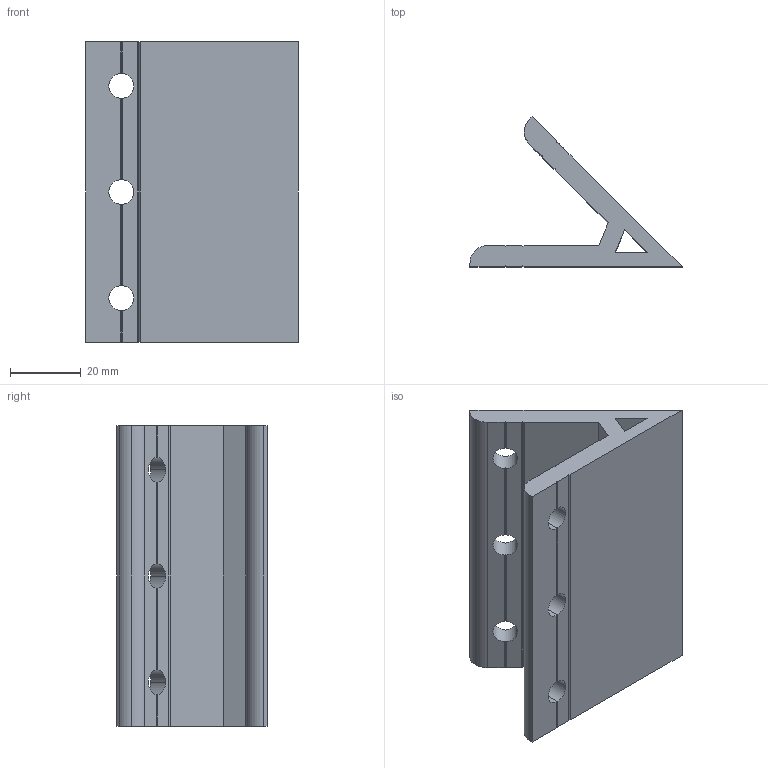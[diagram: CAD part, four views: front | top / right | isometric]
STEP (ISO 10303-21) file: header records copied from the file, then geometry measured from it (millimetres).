
FILE_DESCRIPTION (( 'STEP AP203' ), '1' );
FILE_NAME ('DALV4585-6.STEP', '2020-10-14T01:55:21', ( '' ), ( '' ), 'SwSTEP 2.0', 'SolidWorks 2017', '' );
FILE_SCHEMA (( 'CONFIG_CONTROL_DESIGN' ));
Length unit declared in the file: millimetre
Products named in the file (1): DALV4585-6
Bounding box: 60 x 42.43 x 85 mm (x, y, z)
Volume: 51357.7 mm3; surface area: 21535.4 mm2
Topology: 1 solids, 1 shells, 75 faces, 243 edges, 158 vertices
Faces by surface type: plane 60, cylinder 15
Entity records: 2748 total; most frequent: CARTESIAN_POINT 621, ORIENTED_EDGE 486, DIRECTION 389, EDGE_CURVE 243, VERTEX_POINT 158, LINE 153, VECTOR 153, AXIS2_PLACEMENT_3D 118
